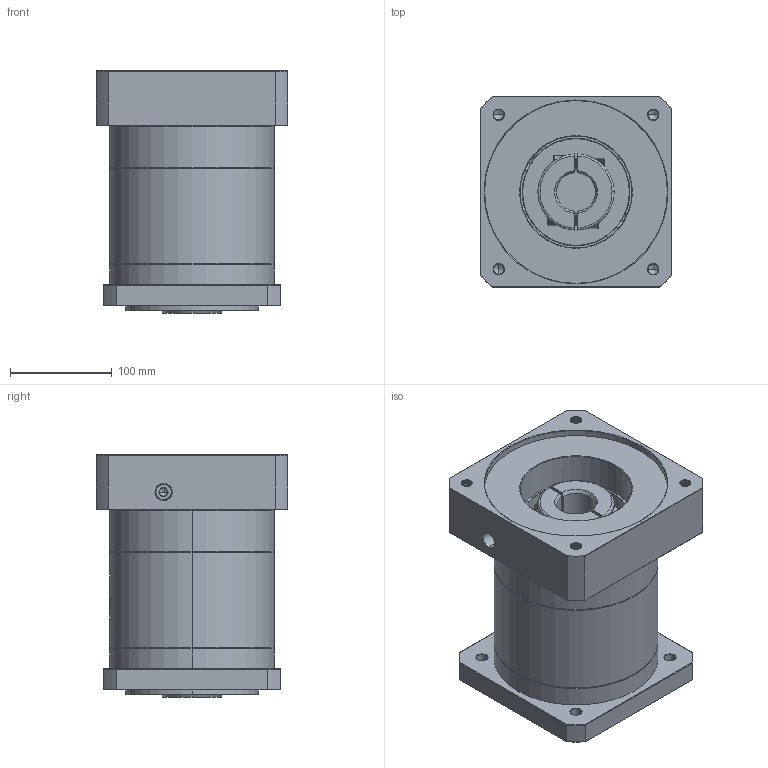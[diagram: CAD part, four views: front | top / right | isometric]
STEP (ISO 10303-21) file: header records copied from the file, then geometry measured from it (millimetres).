
FILE_DESCRIPTION (( 'STEP AP214' ), '1' );
FILE_NAME ('ZF160A-K35-L2-P2-38-180-215-M12.step', '2023-09-03T07:03:28', ( '' ), ( '' ), 'SwSTEP 2.0', 'SolidWorks 2016', '' );
FILE_SCHEMA (( 'AUTOMOTIVE_DESIGN' ));
Length unit declared in the file: millimetre
Products named in the file (1): ZF160A-K35-L2-P2-38-180-215-M12
Bounding box: 188 x 188 x 238.2 mm (x, y, z)
Volume: 5143273.5 mm3; surface area: 370332.9 mm2
Topology: 6 solids, 6 shells, 2128 faces, 5765 edges, 3741 vertices
Faces by surface type: plane 1010, bspline 404, cylinder 374, cone 320, torus 20
Entity records: 119127 total; most frequent: CARTESIAN_POINT 46982, ORIENTED_EDGE 11474, DIRECTION 8411, EDGE_CURVE 5737, VERTEX_POINT 3741, LINE 2995, VECTOR 2995, AXIS2_PLACEMENT_3D 2708
